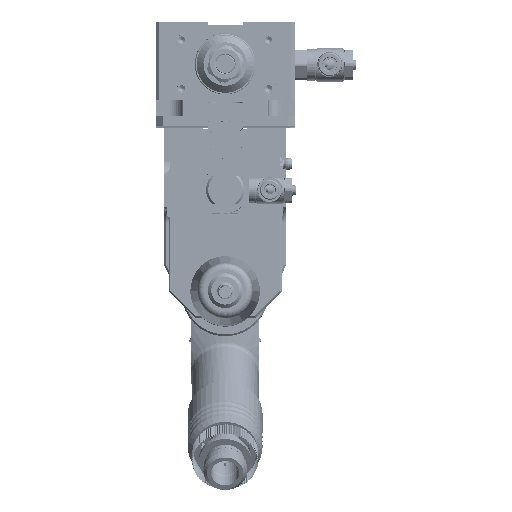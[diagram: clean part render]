
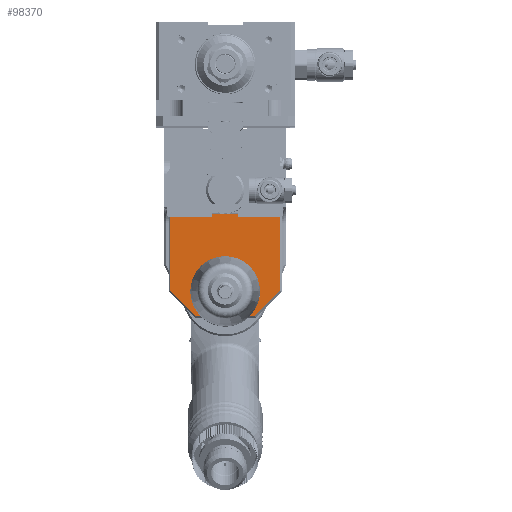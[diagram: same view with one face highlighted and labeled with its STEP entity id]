
A CAD part, top view. The second image highlights one B-rep face of the part: STEP entity #98370.
In plain terms, the highlighted planar face has unit normal (0, 0, 1).
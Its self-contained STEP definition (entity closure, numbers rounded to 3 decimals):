
#5377=LINE('',#140227,#12478);
#5388=LINE('',#140258,#12489);
#5392=LINE('',#140271,#12493);
#5393=LINE('',#140273,#12494);
#5394=LINE('',#140274,#12495);
#5395=LINE('',#140276,#12496);
#5396=LINE('',#140278,#12497);
#5397=LINE('',#140280,#12498);
#5398=LINE('',#140282,#12499);
#5399=LINE('',#140283,#12500);
#5400=LINE('',#140285,#12501);
#5401=LINE('',#140287,#12502);
#5402=LINE('',#140289,#12503);
#5403=LINE('',#140290,#12504);
#12478=VECTOR('',#113593,10.);
#12489=VECTOR('',#113618,10.);
#12493=VECTOR('',#113628,10.);
#12494=VECTOR('',#113629,10.);
#12495=VECTOR('',#113630,10.);
#12496=VECTOR('',#113631,10.);
#12497=VECTOR('',#113632,10.);
#12498=VECTOR('',#113633,10.);
#12499=VECTOR('',#113634,10.);
#12500=VECTOR('',#113635,10.);
#12501=VECTOR('',#113636,10.);
#12502=VECTOR('',#113637,10.);
#12503=VECTOR('',#113638,10.);
#12504=VECTOR('',#113639,10.);
#20122=FACE_BOUND('',#26329,.T.);
#20902=FACE_OUTER_BOUND('',#26328,.T.);
#26328=EDGE_LOOP('',(#61910,#61911,#61912,#61913,#61914,#61915,#61916,#61917,
#61918,#61919,#61920,#61921,#61922,#61923));
#26329=EDGE_LOOP('',(#61924,#61925));
#32503=CIRCLE('',#103961,13.4);
#32504=CIRCLE('',#103962,13.4);
#37117=VERTEX_POINT('',#140224);
#37118=VERTEX_POINT('',#140225);
#37130=VERTEX_POINT('',#140255);
#37131=VERTEX_POINT('',#140256);
#37136=VERTEX_POINT('',#140269);
#37137=VERTEX_POINT('',#140270);
#37138=VERTEX_POINT('',#140272);
#37139=VERTEX_POINT('',#140275);
#37140=VERTEX_POINT('',#140277);
#37141=VERTEX_POINT('',#140279);
#37142=VERTEX_POINT('',#140281);
#37143=VERTEX_POINT('',#140284);
#37144=VERTEX_POINT('',#140286);
#37145=VERTEX_POINT('',#140288);
#37146=VERTEX_POINT('',#140291);
#37147=VERTEX_POINT('',#140292);
#47043=EDGE_CURVE('',#37118,#37117,#5377,.T.);
#47057=EDGE_CURVE('',#37131,#37130,#5388,.T.);
#47062=EDGE_CURVE('',#37136,#37137,#5392,.T.);
#47063=EDGE_CURVE('',#37138,#37136,#5393,.T.);
#47064=EDGE_CURVE('',#37117,#37138,#5394,.T.);
#47065=EDGE_CURVE('',#37139,#37118,#5395,.T.);
#47066=EDGE_CURVE('',#37140,#37139,#5396,.T.);
#47067=EDGE_CURVE('',#37140,#37141,#5397,.T.);
#47068=EDGE_CURVE('',#37142,#37141,#5398,.T.);
#47069=EDGE_CURVE('',#37130,#37142,#5399,.T.);
#47070=EDGE_CURVE('',#37143,#37131,#5400,.T.);
#47071=EDGE_CURVE('',#37144,#37143,#5401,.T.);
#47072=EDGE_CURVE('',#37145,#37144,#5402,.T.);
#47073=EDGE_CURVE('',#37137,#37145,#5403,.T.);
#47074=EDGE_CURVE('',#37146,#37147,#32503,.T.);
#47075=EDGE_CURVE('',#37147,#37146,#32504,.T.);
#61910=ORIENTED_EDGE('',*,*,#47062,.F.);
#61911=ORIENTED_EDGE('',*,*,#47063,.F.);
#61912=ORIENTED_EDGE('',*,*,#47064,.F.);
#61913=ORIENTED_EDGE('',*,*,#47043,.F.);
#61914=ORIENTED_EDGE('',*,*,#47065,.F.);
#61915=ORIENTED_EDGE('',*,*,#47066,.F.);
#61916=ORIENTED_EDGE('',*,*,#47067,.T.);
#61917=ORIENTED_EDGE('',*,*,#47068,.F.);
#61918=ORIENTED_EDGE('',*,*,#47069,.F.);
#61919=ORIENTED_EDGE('',*,*,#47057,.F.);
#61920=ORIENTED_EDGE('',*,*,#47070,.F.);
#61921=ORIENTED_EDGE('',*,*,#47071,.F.);
#61922=ORIENTED_EDGE('',*,*,#47072,.F.);
#61923=ORIENTED_EDGE('',*,*,#47073,.F.);
#61924=ORIENTED_EDGE('',*,*,#47074,.F.);
#61925=ORIENTED_EDGE('',*,*,#47075,.F.);
#91139=PLANE('',#103960);
#98370=ADVANCED_FACE('',(#20902,#20122),#91139,.F.);
#103960=AXIS2_PLACEMENT_3D('',#140268,#113626,#113627);
#103961=AXIS2_PLACEMENT_3D('',#140293,#113640,#113641);
#103962=AXIS2_PLACEMENT_3D('',#140294,#113642,#113643);
#113593=DIRECTION('',(1.,0.,0.));
#113618=DIRECTION('',(1.,0.,0.));
#113626=DIRECTION('center_axis',(0.,0.,
-1.));
#113627=DIRECTION('ref_axis',(-1.,0.,0.));
#113628=DIRECTION('',(-0.707,-0.707,0.));
#113629=DIRECTION('',(0.,-1.,0.));
#113630=DIRECTION('',(1.,0.,0.));
#113631=DIRECTION('',(1.,0.,0.));
#113632=DIRECTION('',(0.,-1.,0.));
#113633=DIRECTION('',(-1.,0.,0.));
#113634=DIRECTION('',(0.,1.,0.));
#113635=DIRECTION('',(1.,0.,0.));
#113636=DIRECTION('',(1.,0.,0.));
#113637=DIRECTION('',(0.,1.,0.));
#113638=DIRECTION('',(-0.707,0.707,0.));
#113639=DIRECTION('',(-1.,0.,0.));
#113640=DIRECTION('center_axis',(0.,0.,
1.));
#113641=DIRECTION('ref_axis',(0.,1.,0.));
#113642=DIRECTION('center_axis',(0.,0.,
1.));
#113643=DIRECTION('ref_axis',(0.,1.,0.));
#140224=CARTESIAN_POINT('',(28.169,-70.,407.05));
#140225=CARTESIAN_POINT('',(21.831,-70.,407.05));
#140227=CARTESIAN_POINT('',(-32.5,-70.,407.05));
#140255=CARTESIAN_POINT('',(-21.831,-70.,407.05));
#140256=CARTESIAN_POINT('',(-28.169,-70.,407.05));
#140258=CARTESIAN_POINT('',(-32.5,-70.,407.05));
#140268=CARTESIAN_POINT('Origin',(0.,-99.,
407.05));
#140269=CARTESIAN_POINT('',(31.5,-112.586,407.05));
#140270=CARTESIAN_POINT('',(17.086,-127.,407.05));
#140271=CARTESIAN_POINT('',(23.418,-120.668,407.05));
#140272=CARTESIAN_POINT('',(31.5,-70.,407.05));
#140273=CARTESIAN_POINT('',(31.5,-113.5,407.05));
#140274=CARTESIAN_POINT('',(-16.75,-70.,407.05));
#140275=CARTESIAN_POINT('',(7.5,-70.,407.05));
#140276=CARTESIAN_POINT('',(-16.75,-70.,407.05));
#140277=CARTESIAN_POINT('',(7.5,-68.5,407.05));
#140278=CARTESIAN_POINT('',(7.5,-84.5,407.05));
#140279=CARTESIAN_POINT('',(-7.5,-68.5,407.05));
#140280=CARTESIAN_POINT('',(7.5,-68.5,407.05));
#140281=CARTESIAN_POINT('',(-7.5,-70.,407.05));
#140282=CARTESIAN_POINT('',(-7.5,-84.5,407.05));
#140283=CARTESIAN_POINT('',(-16.75,-70.,407.05));
#140284=CARTESIAN_POINT('',(-31.5,-70.,407.05));
#140285=CARTESIAN_POINT('',(-16.75,-70.,407.05));
#140286=CARTESIAN_POINT('',(-31.5,-112.586,407.05));
#140287=CARTESIAN_POINT('',(-31.5,-84.5,407.05));
#140288=CARTESIAN_POINT('',(-17.086,-127.,407.05));
#140289=CARTESIAN_POINT('',(-23.418,-120.668,407.05));
#140290=CARTESIAN_POINT('',(-16.25,-127.,407.05));
#140291=CARTESIAN_POINT('',(-13.4,-113.,407.05));
#140292=CARTESIAN_POINT('',(0.,-126.4,407.05));
#140293=CARTESIAN_POINT('Origin',(0.,-113.,
407.05));
#140294=CARTESIAN_POINT('Origin',(0.,-113.,
407.05));
